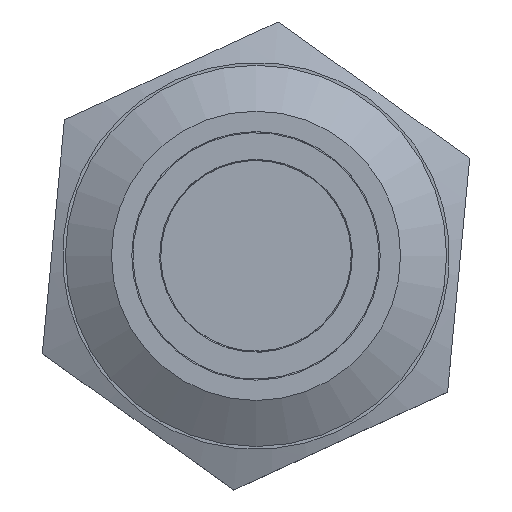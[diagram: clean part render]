
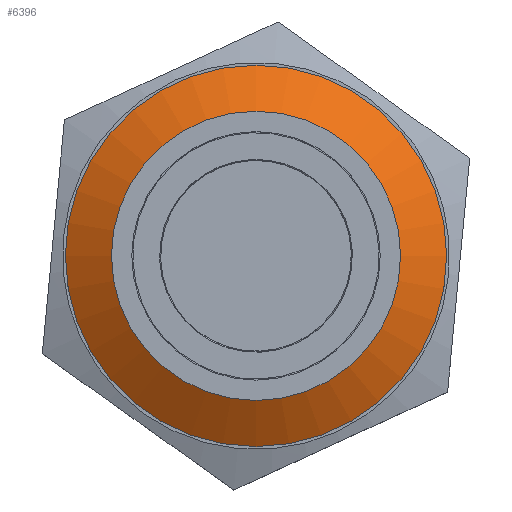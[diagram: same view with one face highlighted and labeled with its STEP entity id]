
A CAD part, top view. The second image highlights one B-rep face of the part: STEP entity #6396.
In plain terms, the highlighted conical face has half-angle 58.841 degrees and reference radius 8.9 mm.
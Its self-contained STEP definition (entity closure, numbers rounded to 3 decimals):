
#510=FACE_OUTER_BOUND('',#892,.T.);
#892=EDGE_LOOP('',(#4558,#4559,#4560,#4561));
#1305=CIRCLE('',#6793,8.9);
#1306=CIRCLE('',#6795,6.75);
#1595=LINE('',#15442,#2254);
#2254=VECTOR('',#7424,8.9);
#2928=VERTEX_POINT('',#15350);
#2929=VERTEX_POINT('',#15354);
#3563=EDGE_CURVE('',#2928,#2928,#1305,.T.);
#3564=EDGE_CURVE('',#2929,#2929,#1306,.T.);
#3583=EDGE_CURVE('',#2928,#2929,#1595,.T.);
#4558=ORIENTED_EDGE('',*,*,#3563,.F.);
#4559=ORIENTED_EDGE('',*,*,#3583,.T.);
#4560=ORIENTED_EDGE('',*,*,#3564,.F.);
#4561=ORIENTED_EDGE('',*,*,#3583,.F.);
#6355=CONICAL_SURFACE('',#6818,8.9,1.027);
#6396=ADVANCED_FACE('',(#510),#6355,.T.);
#6793=AXIS2_PLACEMENT_3D('',#15352,#7368,#7369);
#6795=AXIS2_PLACEMENT_3D('',#15355,#7372,#7373);
#6818=AXIS2_PLACEMENT_3D('',#15441,#7422,#7423);
#7368=DIRECTION('center_axis',(0.,0.,-1.));
#7369=DIRECTION('ref_axis',(-1.,0.,0.));
#7372=DIRECTION('center_axis',(0.,0.,1.));
#7373=DIRECTION('ref_axis',(-1.,0.,0.));
#7422=DIRECTION('center_axis',(0.,0.,-1.));
#7423=DIRECTION('ref_axis',(-1.,0.,0.));
#7424=DIRECTION('',(-0.856,0.,0.517));
#15350=CARTESIAN_POINT('',(8.9,0.,10.));
#15352=CARTESIAN_POINT('Origin',(0.,0.,10.));
#15354=CARTESIAN_POINT('',(6.75,0.,11.3));
#15355=CARTESIAN_POINT('Origin',(0.,0.,11.3));
#15441=CARTESIAN_POINT('Origin',(0.,0.,10.));
#15442=CARTESIAN_POINT('',(8.9,0.,10.));
